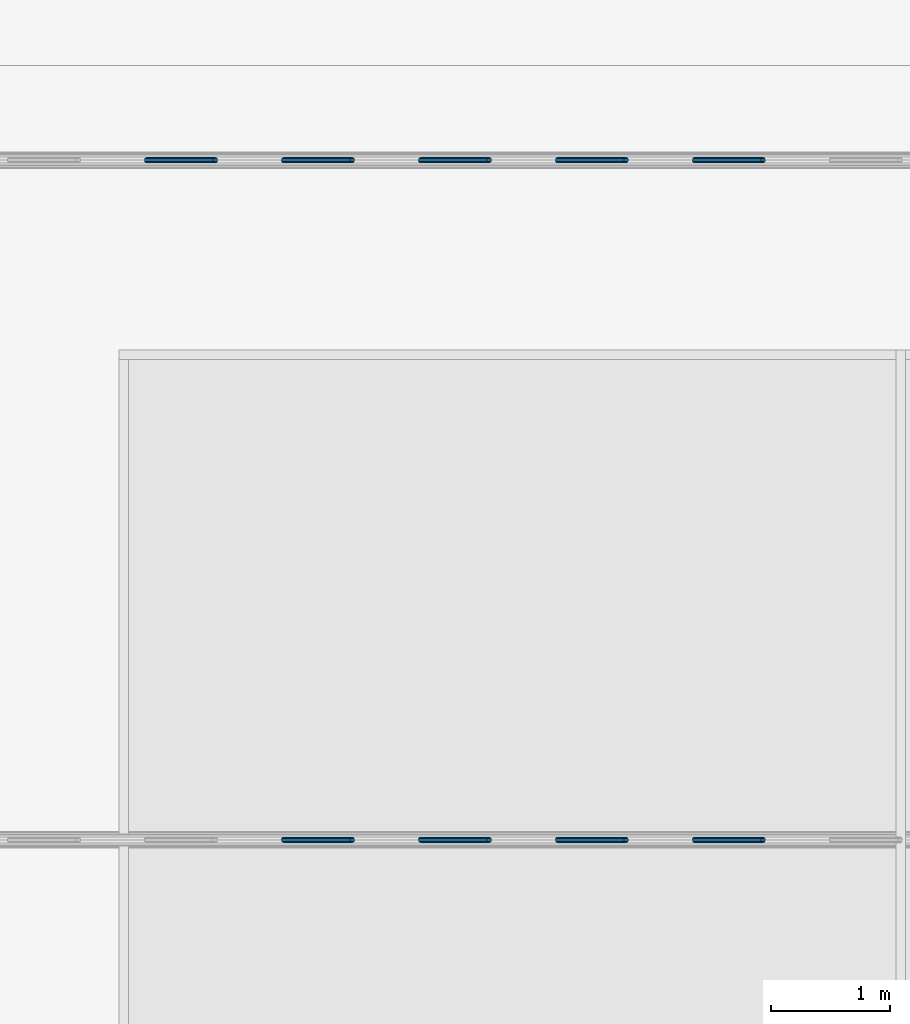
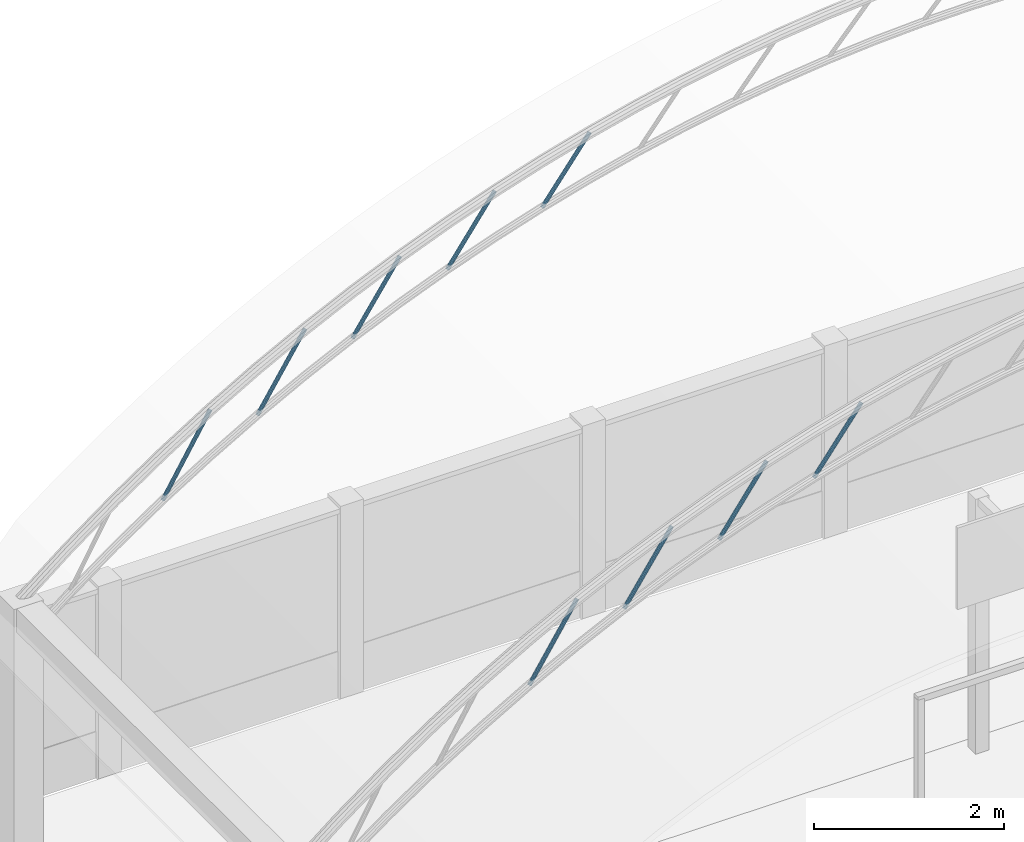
# One storey, part 29 of 177: 9 beams.
"""IFC4 building model written with IfcOpenShell, lengths in metres."""

import ifcopenshell
import ifcopenshell.guid

model = None  # the IFC model being written
_history = None  # IfcOwnerHistory: only IFC2X3 demands one
_inside = {}  # id of a spatial element -> (the spatial element, [elements in it])
_under = {}  # id of a project, library or spatial element -> (it, [spatial elements below it])
_declared = {}  # id of a project -> (the project, [libraries it declares])
_typed = {}  # id of a type object -> (the type object, [elements of that type])
_made_of = {}  # id of a material, layer set ... -> (it, [elements and type objects made of it])


def new_model(schema):
    """Start an empty IFC model of exactly this schema.

    Asked for "IFC4X3", IfcOpenShell would pick the latest addendum, in which some entities
    have other attributes; the version numbers below select the first issue.
    IFC2X3 requires an IfcOwnerHistory on every rooted entity: one is made here for all.
    """
    global model, _history
    if schema == "IFC4X3":
        model = ifcopenshell.file(schema_version=(4, 3, 0, 0))
    else:
        model = ifcopenshell.file(schema=schema)
    _inside.clear()
    _under.clear()
    _declared.clear()
    _typed.clear()
    _made_of.clear()
    _history = None
    if model.schema == "IFC2X3":
        org = make("IfcOrganization", Name="unknown")
        user = make(
            "IfcPersonAndOrganization",
            ThePerson=make("IfcPerson", FamilyName="unknown"),
            TheOrganization=org,
        )
        app = make(
            "IfcApplication",
            ApplicationDeveloper=org,
            Version="unknown",
            ApplicationFullName="unknown",
            ApplicationIdentifier="unknown",
        )
        _history = make(
            "IfcOwnerHistory",
            OwningUser=user,
            OwningApplication=app,
            ChangeAction="ADDED",
            CreationDate=0,
        )
    return model


def make(cls, **values):
    """One entity of the class cls with the attributes given. An attribute that is None is left unset."""
    return model.create_entity(
        cls, **{name: value for name, value in values.items() if value is not None}
    )


def rooted(cls, **values):
    """An entity with a GlobalId (a new one), such as an element, a storey or a relation."""
    return make(cls, GlobalId=ifcopenshell.guid.new(), OwnerHistory=_history, **values)


def si_unit(unit_type, name, prefix=None):
    """IfcSIUnit, for example si_unit("LENGTHUNIT", "METRE", prefix="MILLI")."""
    return make("IfcSIUnit", UnitType=unit_type, Prefix=prefix, Name=name)


def assignment(units):
    """IfcUnitAssignment: the units of a project."""
    return None if units is None else make("IfcUnitAssignment", Units=units)


def point(xyz):
    """IfcCartesianPoint."""
    return None if xyz is None else make("IfcCartesianPoint", Coordinates=xyz)


def direction(xyz):
    """IfcDirection."""
    return None if xyz is None else make("IfcDirection", DirectionRatios=xyz)


def frame(location, z_axis=None, x_axis=None):
    """IfcAxis2Placement3D, a coordinate frame: its origin and axes. An axis left out is left unset."""
    return make(
        "IfcAxis2Placement3D",
        Location=point(location),
        Axis=direction(z_axis),
        RefDirection=direction(x_axis),
    )


def origin():
    """The frame at (0, 0, 0) with its axes left unset."""
    return frame((0.0, 0.0, 0.0))


def origin_with_axes():
    """The frame at (0, 0, 0) with the z axis (0, 0, 1) and the x axis (1, 0, 0) written out."""
    return frame((0.0, 0.0, 0.0), z_axis=(0.0, 0.0, 1.0), x_axis=(1.0, 0.0, 0.0))


def place(relative_to, where):
    """IfcLocalPlacement: puts the frame where relative to a parent placement (None: the world)."""
    return make(
        "IfcLocalPlacement", PlacementRelTo=relative_to, RelativePlacement=where
    )


def context(
    kind, dimensions, precision=None, world=None, true_north=None, identifier=None
):
    """IfcGeometricRepresentationContext, for example the 3D "Model" context."""
    return make(
        "IfcGeometricRepresentationContext",
        ContextIdentifier=identifier,
        ContextType=kind,
        CoordinateSpaceDimension=dimensions,
        Precision=precision,
        WorldCoordinateSystem=world,
        TrueNorth=true_north,
    )


def subcontext(parent, identifier, kind, view, scale=None):
    """IfcGeometricRepresentationSubContext, for example "Body" below "Model"."""
    return make(
        "IfcGeometricRepresentationSubContext",
        ContextIdentifier=identifier,
        ContextType=kind,
        ParentContext=parent,
        TargetScale=scale,
        TargetView=view,
    )


def project(units=None, contexts=None):
    """IfcProject with its units and contexts."""
    return rooted(
        "IfcProject",
        Name="project",
        RepresentationContexts=contexts,
        UnitsInContext=assignment(units),
    )


def spatial(cls, under=None, at=None, **own):
    """A site, building, storey or space (cls), placed at a placement, below another one or the project."""
    s = rooted(cls, ObjectPlacement=at, **own)
    if under is not None:
        _under.setdefault(under.id(), (under, []))[1].append(s)
    return s


def point_list(points):
    """IfcCartesianPointList2D or 3D."""
    cls = (
        "IfcCartesianPointList2D" if len(points[0]) == 2 else "IfcCartesianPointList3D"
    )
    return make(cls, CoordList=points)


def triangles(points, corners, closed=None, point_numbers=None):
    """IfcTriangulatedFaceSet: each triangle names its three corners, points numbered from 1."""
    return make(
        "IfcTriangulatedFaceSet",
        Coordinates=point_list(points),
        Closed=closed,
        CoordIndex=corners,
        PnIndex=point_numbers,
    )


def shape(context_of_items, identifier, shape_type, items):
    """IfcShapeRepresentation: the items that make up one representation, for example the "Body"."""
    return make(
        "IfcShapeRepresentation",
        ContextOfItems=context_of_items,
        RepresentationIdentifier=identifier,
        RepresentationType=shape_type,
        Items=items,
    )


def made_of(thing, what):
    """Note that an element or type object is made of a material, layer set ...; save() writes the relation."""
    if what is not None:
        _made_of.setdefault(what.id(), (what, []))[1].append(thing)
    return thing


def element(
    cls,
    number,
    at=None,
    inside=None,
    cuts=None,
    type_object=None,
    material=None,
    context=None,
    identifier="Body",
    shape_type=None,
    held_by="IfcProductDefinitionShape",
    body=None,
    shapes=None,
    **own,
):
    """One element of the class cls, such as IfcWall. Its Tag is "e" and its number.

    at: its placement. inside: the storey or other place that contains it. cuts: it is an
    opening in that element (IfcRelVoidsElement). A single representation is given by context,
    identifier, shape_type and body (its items); several are given by shapes. held_by: the class
    of the entity that holds the representations. save() writes the other relations.
    """
    e = rooted(cls, Tag="e%d" % number, ObjectPlacement=at, **own)
    if body is not None:
        shapes = [shape(context, identifier, shape_type, body)]
    if shapes is not None:
        e.Representation = make(held_by, Representations=shapes)
    if inside is not None:
        _inside.setdefault(inside.id(), (inside, []))[1].append(e)
    if cuts is not None:
        rooted(
            "IfcRelVoidsElement", RelatingBuildingElement=cuts, RelatedOpeningElement=e
        )
    if type_object is not None:
        _typed.setdefault(type_object.id(), (type_object, []))[1].append(e)
    return made_of(e, material)


def aggregate(whole, parts):
    """IfcRelAggregates: a whole, such as a stair, and the parts it consists of."""
    return rooted("IfcRelAggregates", RelatingObject=whole, RelatedObjects=parts)


def save(model, path):
    """Write the relations noted so far, then the file.

    IfcRelAggregates (storeys below a building ...), IfcRelContainedInSpatialStructure (elements
    in a storey), IfcRelDefinesByType, IfcRelAssociatesMaterial and IfcRelDeclares: one each for
    every whole, place, type object, material and project.
    """
    for whole, parts in _under.values():
        aggregate(whole, parts)
    for where, things in _inside.values():
        rooted(
            "IfcRelContainedInSpatialStructure",
            RelatedElements=things,
            RelatingStructure=where,
        )
    for kind, things in _typed.values():
        rooted("IfcRelDefinesByType", RelatedObjects=things, RelatingType=kind)
    for what, things in _made_of.values():
        rooted("IfcRelAssociatesMaterial", RelatedObjects=things, RelatingMaterial=what)
    for by, libraries in _declared.values():
        rooted("IfcRelDeclares", RelatingContext=by, RelatedDefinitions=libraries)
    model.write(path)


model = new_model("IFC4")

# Units and contexts
model_context = context("Model", 3, precision=1e-05, world=origin_with_axes())
body_context = subcontext(model_context, "Body", "Model", "MODEL_VIEW")
ifc_project = project(units=[si_unit("LENGTHUNIT", "METRE"), si_unit("AREAUNIT", "SQUARE_METRE"), si_unit("VOLUMEUNIT", "CUBIC_METRE"), si_unit("PLANEANGLEUNIT", "RADIAN")], contexts=[model_context])

# Site, building, storey
site_placement = place(None, origin_with_axes())
site = spatial("IfcSite", under=ifc_project, at=site_placement, Name="Predio Los Mangos - Morales, San Martín", CompositionType="ELEMENT")
building_placement = place(site_placement, origin())
building = spatial("IfcBuilding", under=site, at=building_placement, Name="Hogar de Refugio Temporal", CompositionType="ELEMENT")
storey_placement = place(building_placement, origin())
storey = spatial("IfcBuildingStorey", under=building, at=storey_placement, Name="NIVEL 1 (NPT +0.00)", CompositionType="ELEMENT", Elevation=0.0)

# Beams
beam_1_placement = place(storey_placement, origin())
element("IfcBeam", 1, at=beam_1_placement, inside=storey, Name="diag", ObjectType="Viga", PredefinedType="BEAM", context=body_context, shape_type="Tessellation", body=[
    triangles([(6.377, 121.2883, 7.3326), (6.3693, 121.2792, 7.3375), (6.3664, 121.2667, 7.3393), (6.3693, 121.2542, 7.3375), (6.377, 121.245, 7.3326), (6.3875, 121.2417, 7.3259), (6.398, 121.245, 7.3191), (6.4057, 121.2542, 7.3142), (6.4086, 121.2667, 7.3124), (6.4057, 121.2792, 7.3142), (6.398, 121.2883, 7.3191), (6.3875, 121.2917, 7.3259), (6.9545, 121.2883, 8.2366), (6.9468, 121.2792, 8.2415), (6.9439, 121.2667, 8.2433), (6.9468, 121.2542, 8.2415), (6.9545, 121.245, 8.2366), (6.965, 121.2417, 8.2298), (6.9755, 121.245, 8.2231), (6.9832, 121.2542, 8.2182), (6.9861, 121.2667, 8.2164), (6.9832, 121.2792, 8.2182), (6.9755, 121.2883, 8.2231), (6.965, 121.2917, 8.2298)], [[1, 13, 24], [1, 24, 12], [2, 14, 13], [2, 13, 1], [3, 15, 14], [3, 14, 2], [4, 16, 15], [4, 15, 3], [5, 17, 16], [5, 16, 4], [6, 18, 17], [6, 17, 5], [7, 19, 18], [7, 18, 6], [8, 20, 19], [8, 19, 7], [9, 21, 20], [9, 20, 8], [10, 22, 21], [10, 21, 9], [11, 23, 22], [11, 22, 10], [12, 24, 23], [12, 23, 11]]),
])
beam_2_placement = place(storey_placement, origin())
element("IfcBeam", 2, at=beam_2_placement, inside=storey, Name="diag", ObjectType="Viga", PredefinedType="BEAM", context=body_context, shape_type="Tessellation", body=[
    triangles([(7.5321, 121.2883, 7.9148), (7.5246, 121.2792, 7.9199), (7.5218, 121.2667, 7.9218), (7.5246, 121.2542, 7.9199), (7.5321, 121.245, 7.9148), (7.5425, 121.2417, 7.9077), (7.5529, 121.245, 7.9007), (7.5604, 121.2542, 7.8956), (7.5632, 121.2667, 7.8937), (7.5604, 121.2792, 7.8956), (7.5529, 121.2883, 7.9007), (7.5425, 121.2917, 7.9077), (8.1096, 121.2883, 8.7679), (8.1021, 121.2792, 8.7731), (8.0993, 121.2667, 8.7749), (8.1021, 121.2542, 8.7731), (8.1096, 121.245, 8.7679), (8.12, 121.2417, 8.7609), (8.1304, 121.245, 8.7539), (8.1379, 121.2542, 8.7488), (8.1407, 121.2667, 8.7469), (8.1379, 121.2792, 8.7488), (8.1304, 121.2883, 8.7539), (8.12, 121.2917, 8.7609)], [[1, 13, 24], [1, 24, 12], [2, 14, 13], [2, 13, 1], [3, 15, 14], [3, 14, 2], [4, 16, 15], [4, 15, 3], [5, 17, 16], [5, 16, 4], [6, 18, 17], [6, 17, 5], [7, 19, 18], [7, 18, 6], [8, 20, 19], [8, 19, 7], [9, 21, 20], [9, 20, 8], [10, 22, 21], [10, 21, 9], [11, 23, 22], [11, 22, 10], [12, 24, 23], [12, 23, 11]]),
])
beam_3_placement = place(storey_placement, origin())
element("IfcBeam", 3, at=beam_3_placement, inside=storey, Name="diag", ObjectType="Viga", PredefinedType="BEAM", context=body_context, shape_type="Tessellation", body=[
    triangles([(8.6873, 121.2883, 8.3978), (8.6799, 121.2792, 8.4031), (8.6772, 121.2667, 8.405), (8.6799, 121.2542, 8.4031), (8.6873, 121.245, 8.3978), (8.6975, 121.2417, 8.3905), (8.7077, 121.245, 8.3832), (8.7151, 121.2542, 8.3779), (8.7178, 121.2667, 8.3759), (8.7151, 121.2792, 8.3779), (8.7077, 121.2883, 8.3832), (8.6975, 121.2917, 8.3905), (9.2648, 121.2883, 9.2047), (9.2574, 121.2792, 9.21), (9.2547, 121.2667, 9.2119), (9.2574, 121.2542, 9.21), (9.2648, 121.245, 9.2047), (9.275, 121.2417, 9.1974), (9.2852, 121.245, 9.1901), (9.2926, 121.2542, 9.1848), (9.2953, 121.2667, 9.1828), (9.2926, 121.2792, 9.1848), (9.2852, 121.2883, 9.1901), (9.275, 121.2917, 9.1974)], [[1, 13, 24], [1, 24, 12], [2, 14, 13], [2, 13, 1], [3, 15, 14], [3, 14, 2], [4, 16, 15], [4, 15, 3], [5, 17, 16], [5, 16, 4], [6, 18, 17], [6, 17, 5], [7, 19, 18], [7, 18, 6], [8, 20, 19], [8, 19, 7], [9, 21, 20], [9, 20, 8], [10, 22, 21], [10, 21, 9], [11, 23, 22], [11, 22, 10], [12, 24, 23], [12, 23, 11]]),
])
beam_4_placement = place(storey_placement, origin())
element("IfcBeam", 4, at=beam_4_placement, inside=storey, Name="diag", ObjectType="Viga", PredefinedType="BEAM", context=body_context, shape_type="Tessellation", body=[
    triangles([(9.8425, 121.2883, 8.79), (9.8352, 121.2792, 8.7955), (9.8326, 121.2667, 8.7975), (9.8352, 121.2542, 8.7955), (9.8425, 121.245, 8.79), (9.8525, 121.2417, 8.7824), (9.8625, 121.245, 8.7749), (9.8698, 121.2542, 8.7694), (9.8724, 121.2667, 8.7674), (9.8698, 121.2792, 8.7694), (9.8625, 121.2883, 8.7749), (9.8525, 121.2917, 8.7824), (10.42, 121.2883, 9.5539), (10.4127, 121.2792, 9.5594), (10.4101, 121.2667, 9.5614), (10.4127, 121.2542, 9.5594), (10.42, 121.245, 9.5539), (10.43, 121.2417, 9.5463), (10.44, 121.245, 9.5388), (10.4473, 121.2542, 9.5333), (10.4499, 121.2667, 9.5313), (10.4473, 121.2792, 9.5333), (10.44, 121.2883, 9.5388), (10.43, 121.2917, 9.5463)], [[1, 13, 24], [1, 24, 12], [2, 14, 13], [2, 13, 1], [3, 15, 14], [3, 14, 2], [4, 16, 15], [4, 15, 3], [5, 17, 16], [5, 16, 4], [6, 18, 17], [6, 17, 5], [7, 19, 18], [7, 18, 6], [8, 20, 19], [8, 19, 7], [9, 21, 20], [9, 20, 8], [10, 22, 21], [10, 21, 9], [11, 23, 22], [11, 22, 10], [12, 24, 23], [12, 23, 11]]),
])
beam_5_placement = place(storey_placement, origin())
element("IfcBeam", 5, at=beam_5_placement, inside=storey, Name="diag", ObjectType="Viga", PredefinedType="BEAM", context=body_context, shape_type="Tessellation", body=[
    triangles([(5.2218, 127.0217, 6.6398), (5.2139, 127.0125, 6.6445), (5.2111, 127.0, 6.6462), (5.2139, 126.9875, 6.6445), (5.2218, 126.9783, 6.6398), (5.2325, 126.975, 6.6333), (5.2432, 126.9783, 6.6269), (5.2511, 126.9875, 6.6222), (5.2539, 127.0, 6.6205), (5.2511, 127.0125, 6.6222), (5.2432, 127.0217, 6.6269), (5.2325, 127.025, 6.6333), (5.7993, 127.0217, 7.6007), (5.7914, 127.0125, 7.6055), (5.7886, 127.0, 7.6072), (5.7914, 126.9875, 7.6055), (5.7993, 126.9783, 7.6007), (5.81, 126.975, 7.5943), (5.8207, 126.9783, 7.5879), (5.8286, 126.9875, 7.5832), (5.8314, 127.0, 7.5814), (5.8286, 127.0125, 7.5832), (5.8207, 127.0217, 7.5879), (5.81, 127.025, 7.5943)], [[1, 13, 24], [1, 24, 12], [2, 14, 13], [2, 13, 1], [3, 15, 14], [3, 14, 2], [4, 16, 15], [4, 15, 3], [5, 17, 16], [5, 16, 4], [6, 18, 17], [6, 17, 5], [7, 19, 18], [7, 18, 6], [8, 20, 19], [8, 19, 7], [9, 21, 20], [9, 20, 8], [10, 22, 21], [10, 21, 9], [11, 23, 22], [11, 22, 10], [12, 24, 23], [12, 23, 11]]),
])
beam_6_placement = place(storey_placement, origin())
element("IfcBeam", 6, at=beam_6_placement, inside=storey, Name="diag", ObjectType="Viga", PredefinedType="BEAM", context=body_context, shape_type="Tessellation", body=[
    triangles([(6.377, 127.0217, 7.3326), (6.3693, 127.0125, 7.3375), (6.3664, 127.0, 7.3393), (6.3693, 126.9875, 7.3375), (6.377, 126.9783, 7.3326), (6.3875, 126.975, 7.3259), (6.398, 126.9783, 7.3191), (6.4057, 126.9875, 7.3142), (6.4086, 127.0, 7.3124), (6.4057, 127.0125, 7.3142), (6.398, 127.0217, 7.3191), (6.3875, 127.025, 7.3259), (6.9545, 127.0217, 8.2366), (6.9468, 127.0125, 8.2415), (6.9439, 127.0, 8.2433), (6.9468, 126.9875, 8.2415), (6.9545, 126.9783, 8.2366), (6.965, 126.975, 8.2298), (6.9755, 126.9783, 8.2231), (6.9832, 126.9875, 8.2182), (6.9861, 127.0, 8.2164), (6.9832, 127.0125, 8.2182), (6.9755, 127.0217, 8.2231), (6.965, 127.025, 8.2298)], [[1, 13, 24], [1, 24, 12], [2, 14, 13], [2, 13, 1], [3, 15, 14], [3, 14, 2], [4, 16, 15], [4, 15, 3], [5, 17, 16], [5, 16, 4], [6, 18, 17], [6, 17, 5], [7, 19, 18], [7, 18, 6], [8, 20, 19], [8, 19, 7], [9, 21, 20], [9, 20, 8], [10, 22, 21], [10, 21, 9], [11, 23, 22], [11, 22, 10], [12, 24, 23], [12, 23, 11]]),
])
beam_7_placement = place(storey_placement, origin())
element("IfcBeam", 7, at=beam_7_placement, inside=storey, Name="diag", ObjectType="Viga", PredefinedType="BEAM", context=body_context, shape_type="Tessellation", body=[
    triangles([(7.5321, 127.0217, 7.9148), (7.5246, 127.0125, 7.9199), (7.5218, 127.0, 7.9218), (7.5246, 126.9875, 7.9199), (7.5321, 126.9783, 7.9148), (7.5425, 126.975, 7.9077), (7.5529, 126.9783, 7.9007), (7.5604, 126.9875, 7.8956), (7.5632, 127.0, 7.8937), (7.5604, 127.0125, 7.8956), (7.5529, 127.0217, 7.9007), (7.5425, 127.025, 7.9077), (8.1096, 127.0217, 8.7679), (8.1021, 127.0125, 8.7731), (8.0993, 127.0, 8.7749), (8.1021, 126.9875, 8.7731), (8.1096, 126.9783, 8.7679), (8.12, 126.975, 8.7609), (8.1304, 126.9783, 8.7539), (8.1379, 126.9875, 8.7488), (8.1407, 127.0, 8.7469), (8.1379, 127.0125, 8.7488), (8.1304, 127.0217, 8.7539), (8.12, 127.025, 8.7609)], [[1, 13, 24], [1, 24, 12], [2, 14, 13], [2, 13, 1], [3, 15, 14], [3, 14, 2], [4, 16, 15], [4, 15, 3], [5, 17, 16], [5, 16, 4], [6, 18, 17], [6, 17, 5], [7, 19, 18], [7, 18, 6], [8, 20, 19], [8, 19, 7], [9, 21, 20], [9, 20, 8], [10, 22, 21], [10, 21, 9], [11, 23, 22], [11, 22, 10], [12, 24, 23], [12, 23, 11]]),
])
beam_8_placement = place(storey_placement, origin())
element("IfcBeam", 8, at=beam_8_placement, inside=storey, Name="diag", ObjectType="Viga", PredefinedType="BEAM", context=body_context, shape_type="Tessellation", body=[
    triangles([(8.6873, 127.0217, 8.3978), (8.6799, 127.0125, 8.4031), (8.6772, 127.0, 8.405), (8.6799, 126.9875, 8.4031), (8.6873, 126.9783, 8.3978), (8.6975, 126.975, 8.3905), (8.7077, 126.9783, 8.3832), (8.7151, 126.9875, 8.3779), (8.7178, 127.0, 8.3759), (8.7151, 127.0125, 8.3779), (8.7077, 127.0217, 8.3832), (8.6975, 127.025, 8.3905), (9.2648, 127.0217, 9.2047), (9.2574, 127.0125, 9.21), (9.2547, 127.0, 9.2119), (9.2574, 126.9875, 9.21), (9.2648, 126.9783, 9.2047), (9.275, 126.975, 9.1974), (9.2852, 126.9783, 9.1901), (9.2926, 126.9875, 9.1848), (9.2953, 127.0, 9.1828), (9.2926, 127.0125, 9.1848), (9.2852, 127.0217, 9.1901), (9.275, 127.025, 9.1974)], [[1, 13, 24], [1, 24, 12], [2, 14, 13], [2, 13, 1], [3, 15, 14], [3, 14, 2], [4, 16, 15], [4, 15, 3], [5, 17, 16], [5, 16, 4], [6, 18, 17], [6, 17, 5], [7, 19, 18], [7, 18, 6], [8, 20, 19], [8, 19, 7], [9, 21, 20], [9, 20, 8], [10, 22, 21], [10, 21, 9], [11, 23, 22], [11, 22, 10], [12, 24, 23], [12, 23, 11]]),
])
beam_9_placement = place(storey_placement, origin())
element("IfcBeam", 9, at=beam_9_placement, inside=storey, Name="diag", ObjectType="Viga", PredefinedType="BEAM", context=body_context, shape_type="Tessellation", body=[
    triangles([(9.8425, 127.0217, 8.79), (9.8352, 127.0125, 8.7955), (9.8326, 127.0, 8.7975), (9.8352, 126.9875, 8.7955), (9.8425, 126.9783, 8.79), (9.8525, 126.975, 8.7824), (9.8625, 126.9783, 8.7749), (9.8698, 126.9875, 8.7694), (9.8724, 127.0, 8.7674), (9.8698, 127.0125, 8.7694), (9.8625, 127.0217, 8.7749), (9.8525, 127.025, 8.7824), (10.42, 127.0217, 9.5539), (10.4127, 127.0125, 9.5594), (10.4101, 127.0, 9.5614), (10.4127, 126.9875, 9.5594), (10.42, 126.9783, 9.5539), (10.43, 126.975, 9.5463), (10.44, 126.9783, 9.5388), (10.4473, 126.9875, 9.5333), (10.4499, 127.0, 9.5313), (10.4473, 127.0125, 9.5333), (10.44, 127.0217, 9.5388), (10.43, 127.025, 9.5463)], [[1, 13, 24], [1, 24, 12], [2, 14, 13], [2, 13, 1], [3, 15, 14], [3, 14, 2], [4, 16, 15], [4, 15, 3], [5, 17, 16], [5, 16, 4], [6, 18, 17], [6, 17, 5], [7, 19, 18], [7, 18, 6], [8, 20, 19], [8, 19, 7], [9, 21, 20], [9, 20, 8], [10, 22, 21], [10, 21, 9], [11, 23, 22], [11, 22, 10], [12, 24, 23], [12, 23, 11]]),
])

save(model, "model.ifc")
